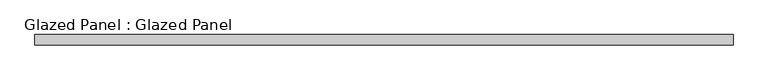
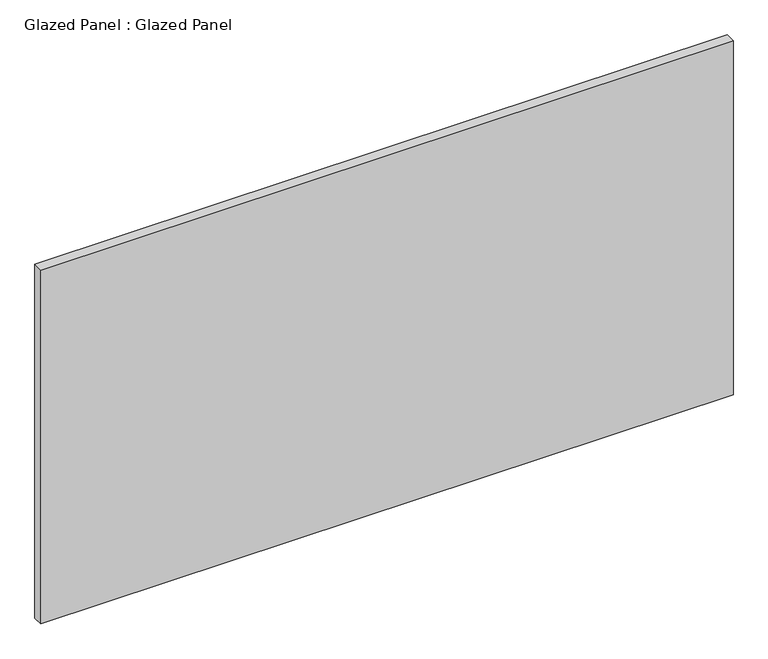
"""IFC4 building model written with IfcOpenShell, lengths in millimetres: plate geometry, Glazed Panel : Glazed Panel."""

from ifc_helpers import new_model, si_unit, origin, origin_with_axes, place, context, project, spatial, polyline, outline, extrude, source, transform, mapped, element, save


def glazed_panel_glazed_panel_5f6da123(model_context):
    return source(origin(), model_context, "Body", "SweptSolid", [
        extrude(outline(polyline([(851.7623557, -38.1), (851.7623557, -63.5), (-851.7623557, -63.5), (-851.7623557, -38.1), (851.7623557, -38.1)])), origin_with_axes(), (0.0, 0.0, 1.0), 920.75),
    ])


if __name__ == "__main__":
    model = new_model("IFC4")
    model_context = context("Model", 3, world=origin())
    ifc_project = project(units=[si_unit("LENGTHUNIT", "METRE", prefix="MILLI")], contexts=[model_context])
    site = spatial("IfcSite", under=ifc_project)
    building = spatial("IfcBuilding", under=site)
    placement = place(None, origin())
    glazed_panel_glazed_panel_shape = glazed_panel_glazed_panel_5f6da123(model_context)
    element("IfcPlate", 1, ObjectType="Glazed Panel : Glazed Panel", at=placement, inside=building, context=model_context, shape_type="MappedRepresentation", body=[
        mapped(glazed_panel_glazed_panel_shape, transform((0.0, 0.0, 0.0), x_axis=(1.0, 0.0, 0.0), y_axis=(0.0, 1.0, 0.0), z_axis=(0.0, 0.0, 1.0))),
    ])
    save(model, "model.ifc")
